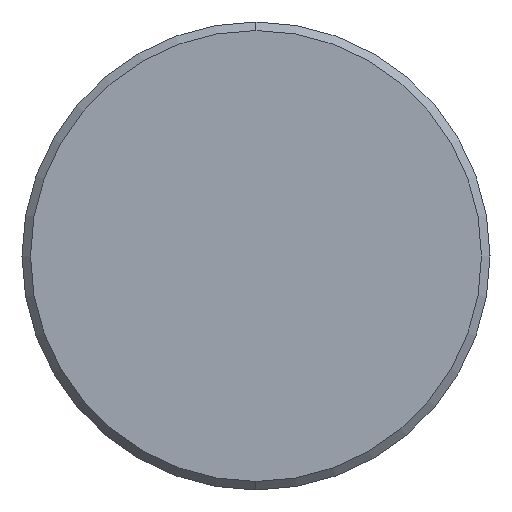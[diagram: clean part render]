
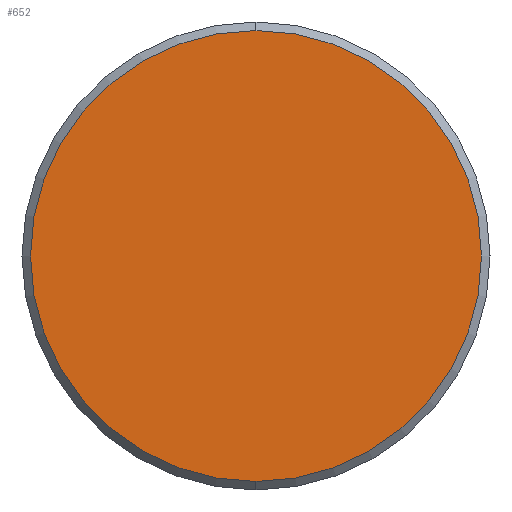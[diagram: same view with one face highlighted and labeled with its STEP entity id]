
A CAD part, left-side view. The second image highlights one B-rep face of the part: STEP entity #652.
In plain terms, the highlighted planar face has unit normal (-1, 0, 0).
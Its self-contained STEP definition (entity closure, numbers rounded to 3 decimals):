
#66 = CARTESIAN_POINT ( 'NONE',  ( 0., 0., 0. ) ) ;
#155 = DIRECTION ( 'NONE',  ( 0., 0., -1. ) ) ;
#186 = CARTESIAN_POINT ( 'NONE',  ( 0., 0., 2.65 ) ) ;
#310 = CARTESIAN_POINT ( 'NONE',  ( 0., 0., -2.65 ) ) ;
#347 = DIRECTION ( 'NONE',  ( 0., 0., -1. ) ) ;
#369 = VERTEX_POINT ( 'NONE', #186 ) ;
#371 = CIRCLE ( 'NONE', #851, 2.65 ) ;
#454 = PLANE ( 'NONE',  #728 ) ;
#529 = ORIENTED_EDGE ( 'NONE', *, *, #938, .T. ) ;
#614 = EDGE_LOOP ( 'NONE', ( #898, #529 ) ) ;
#649 = DIRECTION ( 'NONE',  ( 0., 0., -1. ) ) ;
#652 = ADVANCED_FACE ( 'NONE', ( #813 ), #454, .F. ) ;
#685 = VERTEX_POINT ( 'NONE', #310 ) ;
#710 = CIRCLE ( 'NONE', #830, 2.65 ) ;
#728 = AXIS2_PLACEMENT_3D ( 'NONE', #66, #1016, #155 ) ;
#738 = CARTESIAN_POINT ( 'NONE',  ( 0., 0., 0. ) ) ;
#811 = DIRECTION ( 'NONE',  ( -1., 0., 0. ) ) ;
#813 = FACE_OUTER_BOUND ( 'NONE', #614, .T. ) ;
#815 = DIRECTION ( 'NONE',  ( -1., 0., 0. ) ) ;
#830 = AXIS2_PLACEMENT_3D ( 'NONE', #967, #815, #347 ) ;
#851 = AXIS2_PLACEMENT_3D ( 'NONE', #738, #811, #649 ) ;
#898 = ORIENTED_EDGE ( 'NONE', *, *, #957, .T. ) ;
#938 = EDGE_CURVE ( 'NONE', #369, #685, #371, .T. ) ;
#957 = EDGE_CURVE ( 'NONE', #685, #369, #710, .T. ) ;
#967 = CARTESIAN_POINT ( 'NONE',  ( 0., 0., 0. ) ) ;
#1016 = DIRECTION ( 'NONE',  ( 1., 0., 0. ) ) ;
